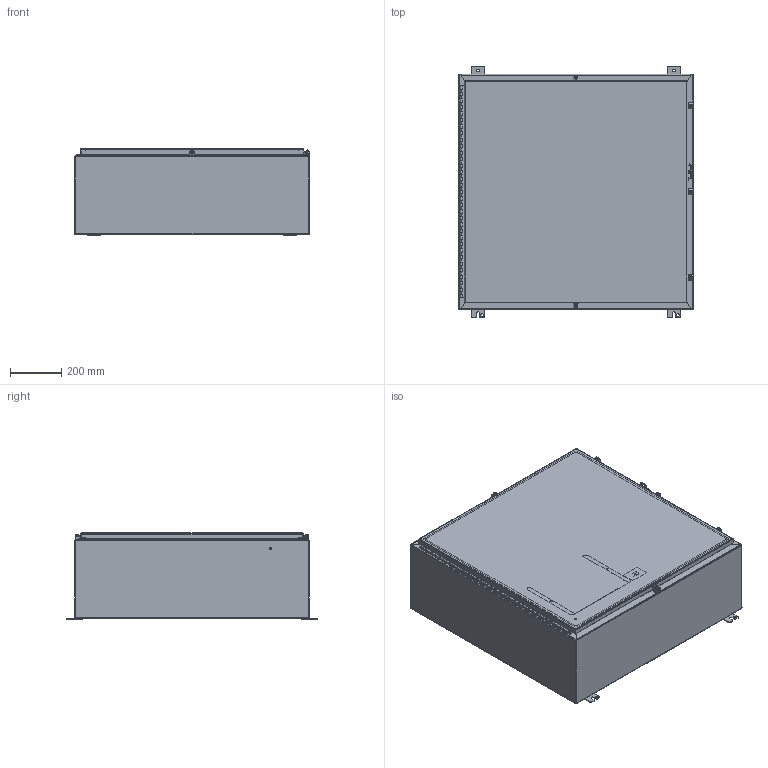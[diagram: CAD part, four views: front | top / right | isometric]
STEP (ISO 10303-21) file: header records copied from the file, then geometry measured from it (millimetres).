
FILE_DESCRIPTION((''),'2;1');
FILE_NAME('MODEL-303_ASM','2026-04-08T09:33:18',('ChadS'),('SAGINAW CONTROL & ENGINEERING'),'CREO PARAMETRIC BY PTC INC, 2021284','CREO PARAMETRIC BY PTC INC, 2021284','');
FILE_SCHEMA(('AUTOMOTIVE_DESIGN { 1 0 10303 214 1 1 1 1 }'));
Length unit declared in the file: inch
Products named in the file (30): MODEL-303-BDY; MODEL-303-TP; MODEL-303-BTM; MODEL-303-DR; 100837; 100882; 111267; 125597; 118921_DR; 118921_PIN; 118921_BX; 118921_STUD; 118921_ASM; 100897; MODEL-303-DOOR-GASKET; 128600; 102483; MODEL-303-DOOR-ASSY_ASM; 102211; 101653; 121454; 120131_BASE; 120131_CLAMP; 120131_SCREW; 120131_CLOSED_ASM; 120134; SUBPANEL; 100904; SUBPANEL-SUBASSEMBLY_ASM; MODEL-303_ASM
Assembly tree (67 placements, depth 4):
  MODEL-303_ASM
    MODEL-303-BDY
    MODEL-303-TP
    MODEL-303-BTM
    MODEL-303-DOOR-ASSY_ASM
      MODEL-303-DR
      100837  x3
      100882  x2
      111267
      125597
      118921_ASM
        118921_DR
        118921_PIN
        118921_BX
        118921_STUD  x5
      100897  x5
      MODEL-303-DOOR-GASKET
      128600
      102483
    102211  x4
    100837
    101653  x8
    121454
    120131_CLOSED_ASM  x5
      120131_BASE
      120131_CLAMP
      120131_SCREW
    100882  x5
    120134
    SUBPANEL-SUBASSEMBLY_ASM
      SUBPANEL
      100904  x8
Bounding box: 914.4 x 977.9 x 335.48 mm (x, y, z)
Volume: 8695474.6 mm3; surface area: 7956077.9 mm2
Topology: 70 solids, 70 shells, 5335 faces, 13911 edges, 8784 vertices
Faces by surface type: plane 2175, bspline 1351, cylinder 1194, torus 322, sphere 163, cone 130
Entity records: 106437 total; most frequent: CARTESIAN_POINT 32099, ORIENTED_EDGE 11110, DIRECTION 10199, PRESENTATION_STYLE_ASSIGNMENT 5686, STYLED_ITEM 5684, CURVE_STYLE 5555, EDGE_CURVE 5555, VERTEX_POINT 3512
